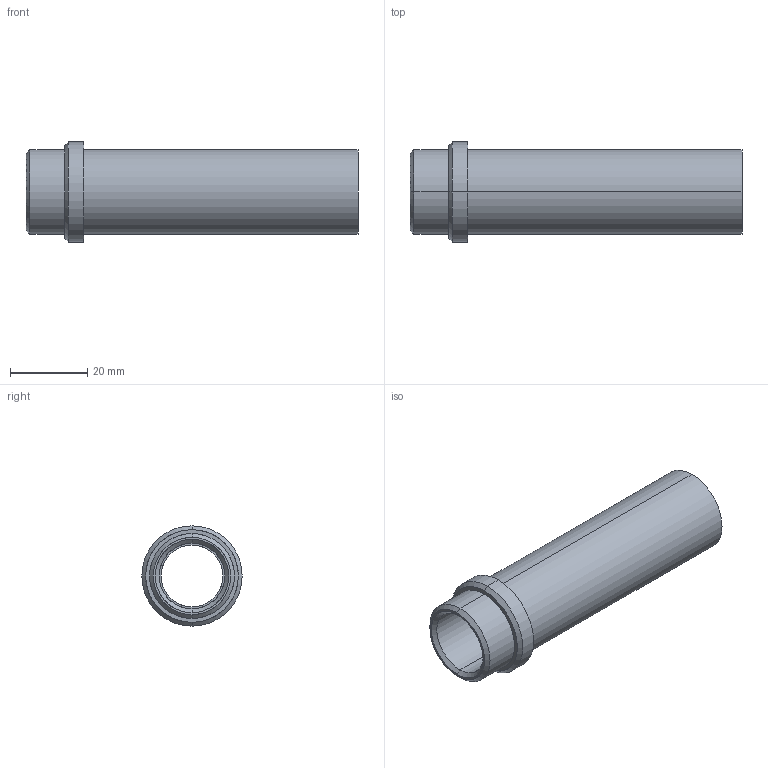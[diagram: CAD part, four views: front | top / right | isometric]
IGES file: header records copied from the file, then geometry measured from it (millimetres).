
Start section: START RECORD GO HERE.
Global section: file name: 358-16x86.igs; native system: DASSAULT SYSTEMES CATIA V5 R20 - www.3ds.com; preprocessor: CATIA Version 5 Release 20 ; author: Utente; organization: NB04-ASUS; date: 20210408.151454; units: millimetre
Bounding box: 86 x 26 x 26 mm (x, y, z)
Surface area: 10996.6 mm2 (no closed solid volume)
Topology: 0 solids, 0 shells, 23 faces, 148 edges, 148 vertices
Faces by surface type: revolution 18, plane 5
